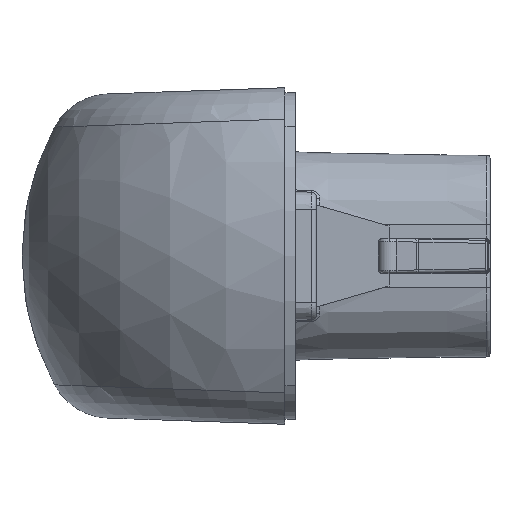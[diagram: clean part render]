
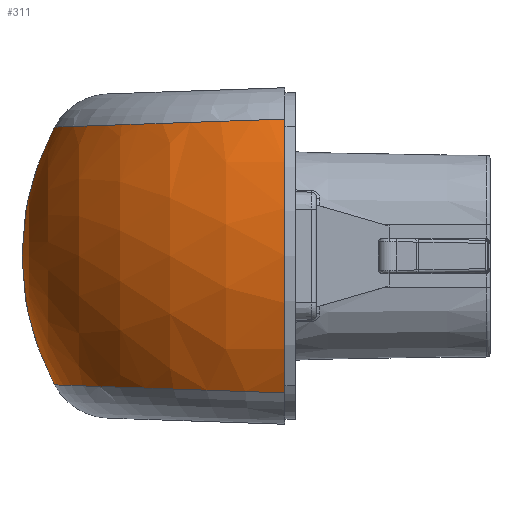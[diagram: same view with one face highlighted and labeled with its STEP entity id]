
A CAD part, left-side view. The second image highlights one B-rep face of the part: STEP entity #311.
In plain terms, the highlighted spherical face has radius 25.904 mm.
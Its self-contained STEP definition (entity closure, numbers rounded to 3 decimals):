
#47=AXIS2_PLACEMENT_3D('Circle Axis2P3D',#45,#46,$) ;
#54=AXIS2_PLACEMENT_3D('Circle Axis2P3D',#52,#53,$) ;
#250=AXIS2_PLACEMENT_3D('Sphere Axis2P3D',#247,#248,#249) ;
#42=CARTESIAN_POINT('Vertex',(-73.112,21.918,12.254)) ;
#45=CARTESIAN_POINT('Axis2P3D Location',(-73.112,-0.904,0.)) ;
#49=CARTESIAN_POINT('Vertex',(-73.112,25.,0.)) ;
#52=CARTESIAN_POINT('Axis2P3D Location',(-73.112,-0.904,0.)) ;
#56=CARTESIAN_POINT('Vertex',(-73.112,21.918,-12.254)) ;
#247=CARTESIAN_POINT('Axis2P3D Location',(-73.112,-0.904,0.)) ;
#253=CARTESIAN_POINT('Control Point',(-73.112,21.918,12.254)) ;
#254=CARTESIAN_POINT('Control Point',(-74.473,21.918,12.254)) ;
#255=CARTESIAN_POINT('Control Point',(-75.835,21.815,12.257)) ;
#256=CARTESIAN_POINT('Control Point',(-77.246,21.609,12.265)) ;
#257=CARTESIAN_POINT('Control Point',(-79.491,21.097,12.282)) ;
#258=CARTESIAN_POINT('Control Point',(-81.991,20.11,12.317)) ;
#259=CARTESIAN_POINT('Control Point',(-82.809,19.742,12.33)) ;
#260=CARTESIAN_POINT('Control Point',(-84.685,18.774,12.364)) ;
#261=CARTESIAN_POINT('Control Point',(-86.586,17.48,12.409)) ;
#262=CARTESIAN_POINT('Control Point',(-87.622,16.66,12.437)) ;
#263=CARTESIAN_POINT('Control Point',(-89.421,14.995,12.496)) ;
#264=CARTESIAN_POINT('Control Point',(-91.009,13.052,12.563)) ;
#265=CARTESIAN_POINT('Control Point',(-91.671,12.129,12.596)) ;
#266=CARTESIAN_POINT('Control Point',(-93.394,9.37,12.692)) ;
#267=CARTESIAN_POINT('Control Point',(-94.606,6.312,12.799)) ;
#268=CARTESIAN_POINT('Control Point',(-95.151,4.239,12.871)) ;
#269=CARTESIAN_POINT('Control Point',(-95.445,2.122,12.945)) ;
#270=CARTESIAN_POINT('Control Point',(-95.488,0.,13.019)) ;
#271=CARTESIAN_POINT('Vertex',(-95.488,0.,13.019)) ;
#275=CARTESIAN_POINT('Control Point',(-95.488,0.,13.019)) ;
#276=CARTESIAN_POINT('Control Point',(-98.232,0.,8.303)) ;
#277=CARTESIAN_POINT('Control Point',(-99.735,0.,2.863)) ;
#278=CARTESIAN_POINT('Control Point',(-99.735,0.,-2.863)) ;
#279=CARTESIAN_POINT('Control Point',(-98.232,0.,-8.303)) ;
#280=CARTESIAN_POINT('Control Point',(-95.488,0.,-13.019)) ;
#281=CARTESIAN_POINT('Vertex',(-95.488,0.,-13.019)) ;
#285=CARTESIAN_POINT('Control Point',(-95.488,0.,-13.019)) ;
#286=CARTESIAN_POINT('Control Point',(-95.445,2.122,-12.945)) ;
#287=CARTESIAN_POINT('Control Point',(-95.151,4.239,-12.871)) ;
#288=CARTESIAN_POINT('Control Point',(-94.606,6.312,-12.799)) ;
#289=CARTESIAN_POINT('Control Point',(-93.394,9.37,-12.692)) ;
#290=CARTESIAN_POINT('Control Point',(-91.671,12.129,-12.596)) ;
#291=CARTESIAN_POINT('Control Point',(-91.009,13.052,-12.563)) ;
#292=CARTESIAN_POINT('Control Point',(-89.421,14.995,-12.496)) ;
#293=CARTESIAN_POINT('Control Point',(-87.622,16.66,-12.437)) ;
#294=CARTESIAN_POINT('Control Point',(-86.586,17.48,-12.409)) ;
#295=CARTESIAN_POINT('Control Point',(-84.685,18.774,-12.364)) ;
#296=CARTESIAN_POINT('Control Point',(-82.809,19.742,-12.33)) ;
#297=CARTESIAN_POINT('Control Point',(-81.991,20.11,-12.317)) ;
#298=CARTESIAN_POINT('Control Point',(-79.491,21.097,-12.282)) ;
#299=CARTESIAN_POINT('Control Point',(-77.246,21.609,-12.265)) ;
#300=CARTESIAN_POINT('Control Point',(-75.835,21.815,-12.257)) ;
#301=CARTESIAN_POINT('Control Point',(-74.473,21.918,-12.254)) ;
#302=CARTESIAN_POINT('Control Point',(-73.112,21.918,-12.254)) ;
#46=DIRECTION('Axis2P3D Direction',(1.,0.,0.)) ;
#53=DIRECTION('Axis2P3D Direction',(1.,0.,0.)) ;
#248=DIRECTION('Axis2P3D Direction',(0.,-1.,0.)) ;
#249=DIRECTION('Axis2P3D XDirection',(0.,0.,1.)) ;
#305=ORIENTED_EDGE('',*,*,#273,.T.) ;
#306=ORIENTED_EDGE('',*,*,#283,.T.) ;
#307=ORIENTED_EDGE('',*,*,#303,.T.) ;
#308=ORIENTED_EDGE('',*,*,#58,.T.) ;
#309=ORIENTED_EDGE('',*,*,#51,.F.) ;
#311=ADVANCED_FACE('Surface.1',(#310),#251,.F.) ;
#252=B_SPLINE_CURVE_WITH_KNOTS('',5,(#253,#254,#255,#256,#257,#258,#259,#260,#261,#262,#263,#264,#265,#266,#267,#268,#269,#270),.UNSPECIFIED.,.F.,.U.,(6,3,3,3,3,6),(58.526,73.837,80.955,89.8,97.008,110.4),.UNSPECIFIED.) ;
#274=B_SPLINE_CURVE_WITH_KNOTS('',5,(#275,#276,#277,#278,#279,#280),.UNSPECIFIED.,.F.,.U.,(6,6),(5.1,43.684),.UNSPECIFIED.) ;
#284=B_SPLINE_CURVE_WITH_KNOTS('',5,(#285,#286,#287,#288,#289,#290,#291,#292,#293,#294,#295,#296,#297,#298,#299,#300,#301,#302),.UNSPECIFIED.,.F.,.U.,(6,3,3,3,3,6),(10.114,23.505,30.714,39.558,46.677,61.988),.UNSPECIFIED.) ;
#48=CIRCLE('generated circle',#47,25.904) ;
#55=CIRCLE('generated circle',#54,25.904) ;
#51=EDGE_CURVE('',#43,#50,#48,.F.) ;
#58=EDGE_CURVE('',#57,#50,#55,.T.) ;
#273=EDGE_CURVE('',#43,#272,#252,.T.) ;
#283=EDGE_CURVE('',#272,#282,#274,.T.) ;
#303=EDGE_CURVE('',#282,#57,#284,.T.) ;
#304=EDGE_LOOP('',(#305,#306,#307,#308,#309)) ;
#310=FACE_OUTER_BOUND('',#304,.T.) ;
#251=SPHERICAL_SURFACE('',#250,25.904) ;
#43=VERTEX_POINT('',#42) ;
#50=VERTEX_POINT('',#49) ;
#57=VERTEX_POINT('',#56) ;
#272=VERTEX_POINT('',#271) ;
#282=VERTEX_POINT('',#281) ;
